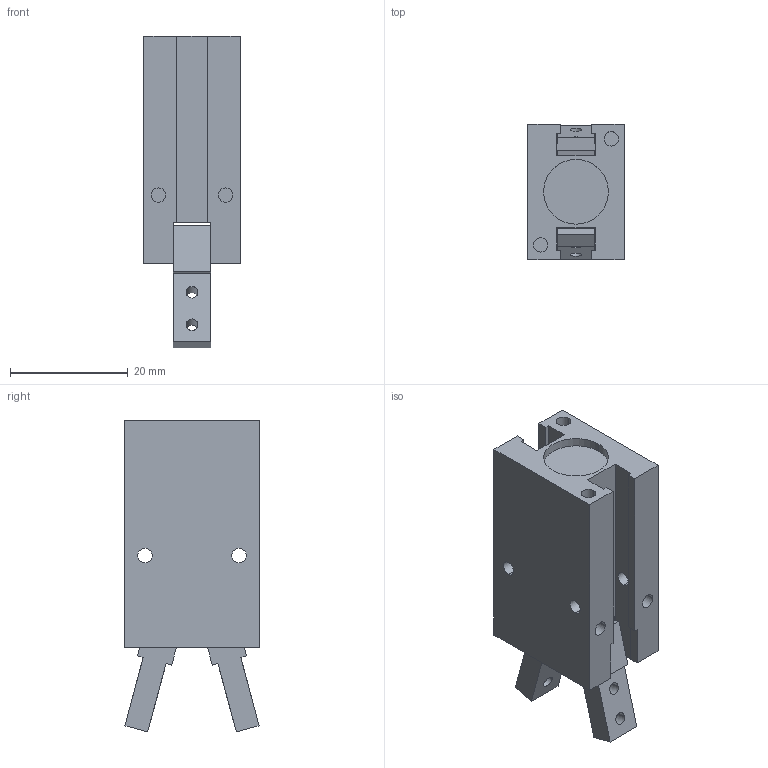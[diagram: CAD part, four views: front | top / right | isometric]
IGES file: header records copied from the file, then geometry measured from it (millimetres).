
Global section: file name: No Iges File Name specified; native system: AutoDesk Inventor R11.0; preprocessor: AutoDesk Inventor Iges Exporter R11.0; author: No Author specified; organization: No Organization specified; date: 20070226.135728; units: millimetre
Bounding box: 16.4 x 23 x 52.93 mm (x, y, z)
Volume: 11851 mm3; surface area: 6540 mm2
Topology: 3 solids, 3 shells, 111 faces, 306 edges, 204 vertices
Faces by surface type: plane 65, bspline 34, revolution 8, cylinder 4
